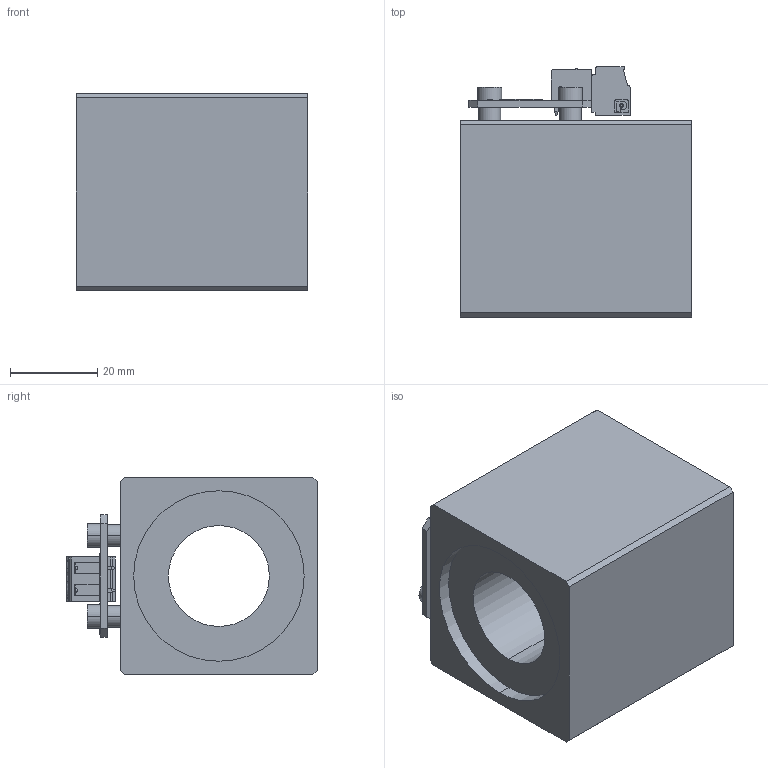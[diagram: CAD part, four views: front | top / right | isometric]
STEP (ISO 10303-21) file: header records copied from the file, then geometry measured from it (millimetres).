
FILE_DESCRIPTION (( 'STEP AP214' ), '1' );
FILE_NAME ('MXS45_23x50-M209b.STEP', '2015-07-17T05:48:17', ( '' ), ( '' ), 'SwSTEP 2.0', 'SolidWorks 2014', '' );
FILE_SCHEMA (( 'AUTOMOTIVE_DESIGN' ));
Length unit declared in the file: millimetre
Products named in the file (2): MXS45_23x50-M209b
Bounding box: 53 x 57.3 x 45 mm (x, y, z)
Volume: 85540.8 mm3; surface area: 20868 mm2
Topology: 12 solids, 12 shells, 559 faces, 1435 edges, 936 vertices
Faces by surface type: plane 357, cylinder 177, cone 14, bspline 11
Entity records: 23478 total; most frequent: CARTESIAN_POINT 3472, ORIENTED_EDGE 2850, DIRECTION 2804, EDGE_CURVE 1425, VECTOR 988, LINE 988, VERTEX_POINT 936, AXIS2_PLACEMENT_3D 908
